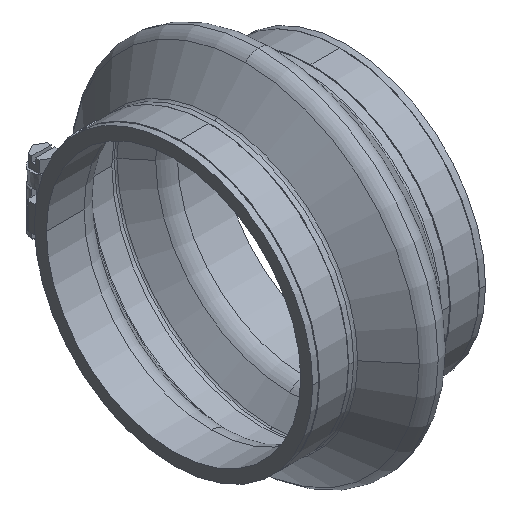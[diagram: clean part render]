
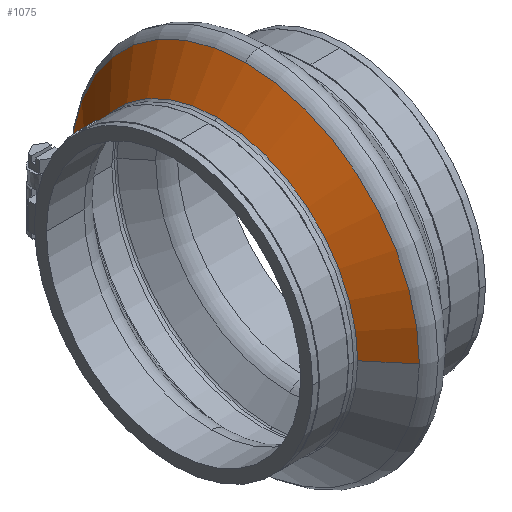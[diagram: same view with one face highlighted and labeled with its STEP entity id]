
A CAD part, isometric view. The second image highlights one B-rep face of the part: STEP entity #1075.
In plain terms, the highlighted conical face has half-angle 50 degrees and reference radius 65.518 mm.
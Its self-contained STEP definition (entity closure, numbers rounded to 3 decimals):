
#141=CARTESIAN_POINT('',(29.909,0.,72.5));
#142=VERTEX_POINT('',#141);
#150=CARTESIAN_POINT('',(29.909,-72.5,0.));
#151=VERTEX_POINT('',#150);
#152=CARTESIAN_POINT('',(29.909,0.0,0.0));
#153=DIRECTION('',(1.0,0.0,0.0));
#154=DIRECTION('',(0.0,1.0,0.0));
#155=AXIS2_PLACEMENT_3D('',#152,#153,#154);
#156=CIRCLE('',#155,72.5);
#157=EDGE_CURVE('',#142,#151,#156,.T.);
#191=CARTESIAN_POINT('',(29.909,72.5,0.0));
#192=VERTEX_POINT('',#191);
#200=CARTESIAN_POINT('',(29.909,0.0,0.0));
#201=DIRECTION('',(1.0,0.0,0.0));
#202=DIRECTION('',(0.0,1.0,0.0));
#203=AXIS2_PLACEMENT_3D('',#200,#201,#202);
#204=CIRCLE('',#203,72.5);
#205=EDGE_CURVE('',#192,#142,#204,.T.);
#1034=CARTESIAN_POINT('',(24.051,0.0,0.0));
#1035=DIRECTION('',(1.0,0.0,0.0));
#1036=DIRECTION('',(0.0,1.0,0.0));
#1037=AXIS2_PLACEMENT_3D('',#1034,#1035,#1036);
#1038=CONICAL_SURFACE('',#1037,65.518,50.0);
#1039=CARTESIAN_POINT('',(18.192,58.536,0.0));
#1040=VERTEX_POINT('',#1039);
#1041=CARTESIAN_POINT('',(18.192,58.536,0.0));
#1042=DIRECTION('',(0.643,0.766,0.0));
#1043=VECTOR('',#1042,18.228);
#1044=LINE('',#1041,#1043);
#1045=EDGE_CURVE('',#1040,#192,#1044,.T.);
#1046=ORIENTED_EDGE('',*,*,#1045,.F.);
#1047=CARTESIAN_POINT('',(18.192,0.,58.536));
#1048=VERTEX_POINT('',#1047);
#1049=CARTESIAN_POINT('',(18.192,0.0,0.0));
#1050=DIRECTION('',(1.0,0.0,0.0));
#1051=DIRECTION('',(0.0,1.0,0.0));
#1052=AXIS2_PLACEMENT_3D('',#1049,#1050,#1051);
#1053=CIRCLE('',#1052,58.536);
#1054=EDGE_CURVE('',#1040,#1048,#1053,.T.);
#1055=ORIENTED_EDGE('',*,*,#1054,.T.);
#1056=CARTESIAN_POINT('',(18.192,-58.536,0.));
#1057=VERTEX_POINT('',#1056);
#1058=CARTESIAN_POINT('',(18.192,0.0,0.0));
#1059=DIRECTION('',(1.0,0.0,0.0));
#1060=DIRECTION('',(0.0,1.0,0.0));
#1061=AXIS2_PLACEMENT_3D('',#1058,#1059,#1060);
#1062=CIRCLE('',#1061,58.536);
#1063=EDGE_CURVE('',#1048,#1057,#1062,.T.);
#1064=ORIENTED_EDGE('',*,*,#1063,.T.);
#1065=CARTESIAN_POINT('',(29.909,-72.5,0.));
#1066=DIRECTION('',(-0.643,0.766,0.));
#1067=VECTOR('',#1066,18.228);
#1068=LINE('',#1065,#1067);
#1069=EDGE_CURVE('',#151,#1057,#1068,.T.);
#1070=ORIENTED_EDGE('',*,*,#1069,.F.);
#1071=ORIENTED_EDGE('',*,*,#157,.F.);
#1072=ORIENTED_EDGE('',*,*,#205,.F.);
#1073=EDGE_LOOP('',(#1046,#1055,#1064,#1070,#1071,#1072));
#1074=FACE_OUTER_BOUND('',#1073,.T.);
#1075=ADVANCED_FACE('',(#1074),#1038,.T.);
